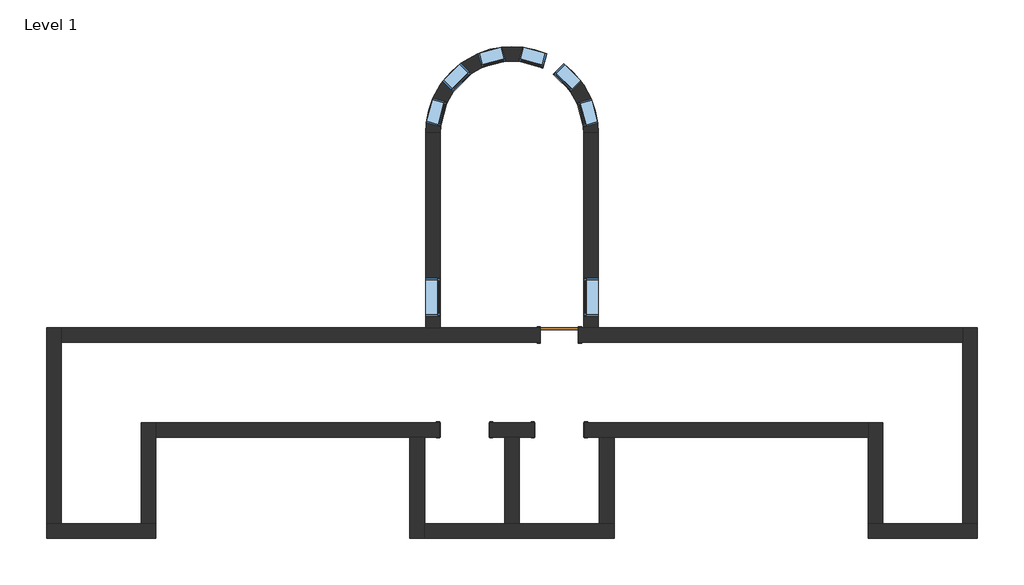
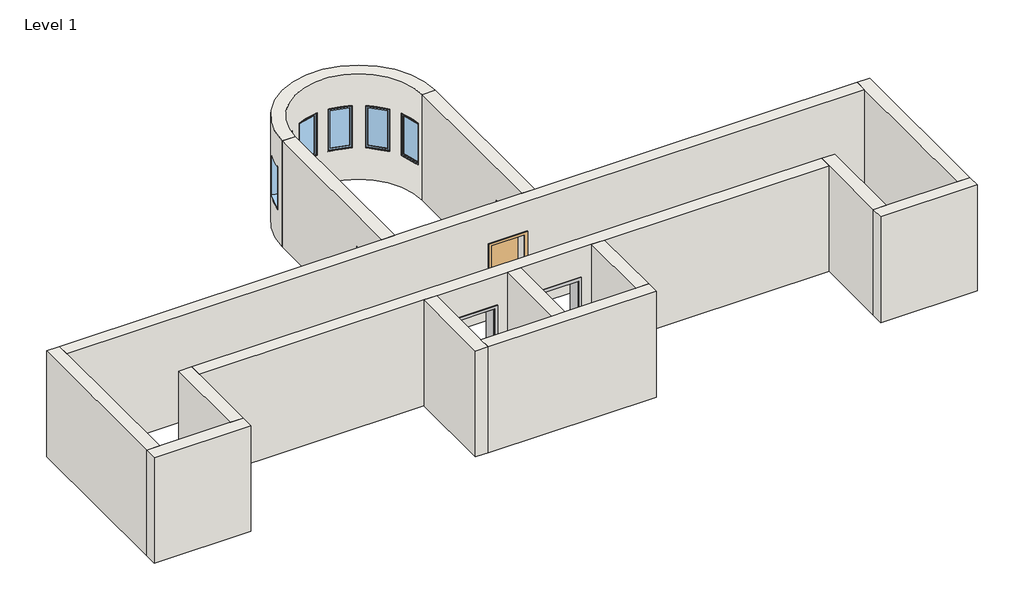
# One storey: 15 walls, 8 windows, 2 proxies, 1 door.
"""IFC4 building model written with IfcOpenShell, lengths in millimetres."""

from ifc_helpers import new_model, si_unit, frame, origin, origin_with_axes, place, context, project, spatial, polyline, circle_curve, outline, extrude, faceted_brep, transform, mapped, element, save
from ifc_brep_helpers import plane_surface, cylinder_surface, revolved_surface, advanced_brep
from components import proxy_c3589814, door_632be17d, window_60baf983, window_15c49d37

model = new_model("IFC4")

# Units and contexts
model_context = context("Model", 3, world=origin())
ifc_project = project(units=[si_unit("LENGTHUNIT", "METRE", prefix="MILLI")], contexts=[model_context])

# Site, building, storey
site = spatial("IfcSite", under=ifc_project)
building = spatial("IfcBuilding", under=site)
storey = spatial("IfcBuildingStorey", under=building, Name="Level 1", Elevation=0.0)

# Proxies
placement = place(None, origin())
proxy_shape = proxy_c3589814(model_context)
element("IfcBuildingElementProxy", 1, Name="Opening-Cased : 48\" x 84\"", ObjectType="Opening-Cased : 48\" x 84\"", at=placement, inside=storey, context=model_context, shape_type="MappedRepresentation", body=[
    mapped(proxy_shape, transform((-7396.8036255, 2429.9758812, 0.0), x_axis=(-1.0, 0.0, 0.0), y_axis=(0.0, -1.0, 0.0), z_axis=(0.0, 0.0, 1.0))),
])
element("IfcBuildingElementProxy", 2, Name="Opening-Cased : 48\" x 84\"", ObjectType="Opening-Cased : 48\" x 84\"", at=placement, inside=storey, context=model_context, shape_type="MappedRepresentation", body=[
    mapped(proxy_shape, transform((-5110.8036255, 2429.9758812, 0.0), x_axis=(-1.0, 0.0, 0.0), y_axis=(0.0, -1.0, 0.0), z_axis=(0.0, 0.0, 1.0))),
])

# Door
door_shape = door_632be17d(model_context)
element("IfcDoor", 3, ObjectType="Single-Flush : 36\" x 84\"", at=placement, inside=storey, context=model_context, shape_type="MappedRepresentation", body=[
    mapped(door_shape, transform((-5102.6149687, 4715.9758812, 0.0), x_axis=(1.0, 0.0, 0.0), y_axis=(0.0, 1.0, 0.0), z_axis=(0.0, 0.0, 1.0))),
])

# Walls
element("IfcWall", 4, ObjectType="Exterior - Brick on Mtl. Stud", at=placement, inside=storey, context=model_context, shape_type="Brep", body=[
    faceted_brep([(-8707.8274687, 2253.7633812, 0.0), (-8707.8274687, -184.6366188, 0.0), (-8707.8274687, -184.6366188, 3048.0), (-8707.8274687, 2253.7633812, 3048.0), (-8355.4024687, 2253.7633812, 0.0), (-8355.4024687, 2253.7633812, 3048.0), (-8355.4024687, 167.7883812, 3048.0), (-8355.4024687, -184.6366188, 3048.0), (-8355.4024687, -184.6366188, 0.0), (-8355.4024687, 167.7883812, 0.0)], [[[0, 1, 2, 3]], [[4, 5, 6, 7, 8, 9]], [[1, 0, 4, 9, 8]], [[3, 2, 7, 6, 5]], [[2, 1, 8, 7]], [[0, 3, 5, 4]]]),
])
element("IfcWall", 5, ObjectType="Exterior - Brick on Mtl. Stud", at=placement, inside=storey, context=model_context, shape_type="Brep", body=[
    faceted_brep([(-8355.4024687, -184.6366188, 0.0), (-3783.4024687, -184.6366188, 0.0), (-3783.4024687, -184.6366188, 3048.0), (-8355.4024687, -184.6366188, 3048.0), (-8355.4024687, 167.7883812, 0.0), (-8355.4024687, 167.7883812, 3048.0), (-6421.8274687, 167.7883812, 3048.0), (-6069.4024687, 167.7883812, 3048.0), (-4135.8274687, 167.7883812, 3048.0), (-3783.4024687, 167.7883812, 3048.0), (-3783.4024687, 167.7883812, 0.0), (-4135.8274687, 167.7883812, 0.0), (-6069.4024687, 167.7883812, 0.0), (-6421.8274687, 167.7883812, 0.0)], [[[0, 1, 2, 3]], [[4, 5, 6, 7, 8, 9, 10, 11, 12, 13]], [[1, 0, 4, 13, 12, 11, 10]], [[3, 2, 9, 8, 7, 6, 5]], [[2, 1, 10, 9]], [[0, 3, 5, 4]]]),
])
element("IfcWall", 6, ObjectType="Exterior - Brick on Mtl. Stud", at=placement, inside=storey, context=model_context, shape_type="SweptSolid", body=[
    extrude(outline(polyline([(-3783.4024687, 2253.7633812), (-3783.4024687, 167.7883812), (-4135.8274687, 167.7883812), (-4135.8274687, 2253.7633812), (-3783.4024687, 2253.7633812)])), origin_with_axes(), (0.0, 0.0, 1.0), 3048.0),
])
element("IfcWall", 7, ObjectType="Exterior - Brick on Mtl. Stud", at=placement, inside=storey, context=model_context, shape_type="Brep", body=[
    faceted_brep([(-6779.0149687, 2253.7633812, 0.0), (-6421.8274687, 2253.7633812, 0.0), (-6069.4024687, 2253.7633812, 0.0), (-5712.2149687, 2253.7633812, 0.0), (-5712.2149687, 2253.7633812, 2133.6), (-4493.0149687, 2253.7633812, 2133.6), (-4493.0149687, 2253.7633812, 0.0), (-4135.8274687, 2253.7633812, 0.0), (-3783.4024687, 2253.7633812, 0.0), (2341.1725313, 2253.7633812, 0.0), (2341.1725313, 2253.7633812, 3048.0), (-3783.4024687, 2253.7633812, 3048.0), (-4135.8274687, 2253.7633812, 3048.0), (-6069.4024687, 2253.7633812, 3048.0), (-6421.8274687, 2253.7633812, 3048.0), (-8355.4024687, 2253.7633812, 3048.0), (-8707.8274687, 2253.7633812, 3048.0), (-14832.4024687, 2253.7633812, 3048.0), (-14832.4024687, 2253.7633812, 0.0), (-8707.8274687, 2253.7633812, 0.0), (-8355.4024687, 2253.7633812, 0.0), (-7998.2149687, 2253.7633812, 0.0), (-7998.2149687, 2253.7633812, 2133.6), (-6779.0149687, 2253.7633812, 2133.6), (-5712.2149687, 2606.1883812, 2133.6), (-5712.2149687, 2606.1883812, 0.0), (-6779.0149687, 2606.1883812, 0.0), (-6779.0149687, 2606.1883812, 2133.6), (-7998.2149687, 2606.1883812, 2133.6), (-7998.2149687, 2606.1883812, 0.0), (-14832.4024687, 2606.1883812, 0.0), (-14832.4024687, 2606.1883812, 3048.0), (2341.1725313, 2606.1883812, 3048.0), (2341.1725313, 2606.1883812, 0.0), (-4493.0149687, 2606.1883812, 0.0), (-4493.0149687, 2606.1883812, 2133.6)], [[[0, 1, 2, 3, 4, 5, 6, 7, 8, 9, 10, 11, 12, 13, 14, 15, 16, 17, 18, 19, 20, 21, 22, 23]], [[24, 25, 26, 27, 28, 29, 30, 31, 32, 33, 34, 35]], [[30, 29, 21, 20, 19, 18]], [[26, 25, 3, 2, 1, 0]], [[34, 33, 9, 8, 7, 6]], [[17, 16, 15, 14, 13, 12, 11, 10, 32, 31]], [[10, 9, 33, 32]], [[18, 17, 31, 30]], [[0, 23, 27, 26]], [[22, 21, 29, 28]], [[23, 22, 28, 27]], [[6, 5, 35, 34]], [[4, 3, 25, 24]], [[5, 4, 24, 35]]]),
])
element("IfcWall", 8, ObjectType="Exterior - Brick on Mtl. Stud", at=placement, inside=storey, context=model_context, shape_type="SweptSolid", body=[
    extrude(outline(polyline([(9592.7758812, 0.0), (4892.1883812, 0.0), (4892.1883812, 3048.0), (9592.7758812, 3048.0), (9592.7758812, 0.0)]), holes=[polyline([(5173.1758812, 2133.6), (5173.1758812, 914.4), (6087.5758812, 914.4), (6087.5758812, 2133.6), (5173.1758812, 2133.6)])]), frame((-8326.8274687, 0.0, 0.0), z_axis=(1.0, 0.0, 0.0), x_axis=(0.0, 1.0, 0.0)), (0.0, 0.0, 1.0), 352.425),
])
element("IfcWall", 9, ObjectType="Exterior - Brick on Mtl. Stud", at=placement, inside=storey, context=model_context, shape_type="Brep", body=[
    faceted_brep([(4627.1725313, 4892.1883812, 0.0), (-4164.4024687, 4892.1883812, 0.0), (-4516.8274687, 4892.1883812, 0.0), (-4645.4149687, 4892.1883812, 0.0), (-4645.4149687, 4892.1883812, 2133.6), (-5559.8149687, 4892.1883812, 2133.6), (-5559.8149687, 4892.1883812, 0.0), (-7974.4024687, 4892.1883812, 0.0), (-8326.8274687, 4892.1883812, 0.0), (-17118.4024687, 4892.1883812, 0.0), (-17118.4024687, 4892.1883812, 3048.0), (-8326.8274687, 4892.1883812, 3048.0), (-7974.4024687, 4892.1883812, 3048.0), (-4516.8274687, 4892.1883812, 3048.0), (-4164.4024687, 4892.1883812, 3048.0), (4627.1725313, 4892.1883812, 3048.0), (-4645.4149687, 4539.7633812, 2133.6), (-4645.4149687, 4539.7633812, 0.0), (4627.1725313, 4539.7633812, 0.0), (4627.1725313, 4539.7633812, 3048.0), (-17118.4024687, 4539.7633812, 3048.0), (-17118.4024687, 4539.7633812, 0.0), (-5559.8149687, 4539.7633812, 0.0), (-5559.8149687, 4539.7633812, 2133.6)], [[[0, 1, 2, 3, 4, 5, 6, 7, 8, 9, 10, 11, 12, 13, 14, 15]], [[16, 17, 18, 19, 20, 21, 22, 23]], [[18, 17, 3, 2, 1, 0]], [[22, 21, 9, 8, 7, 6]], [[15, 14, 13, 12, 11, 10, 20, 19]], [[0, 15, 19, 18]], [[10, 9, 21, 20]], [[4, 3, 17, 16]], [[5, 4, 16, 23]], [[6, 5, 23, 22]]]),
])
element("IfcWall", 10, ObjectType="Exterior - Brick on Mtl. Stud", at=placement, inside=storey, context=model_context, shape_type="SweptSolid", body=[
    extrude(outline(polyline([(4892.1883812, 0.0), (4892.1883812, 3048.0), (9592.7758812, 3048.0), (9592.7758812, 0.0), (4892.1883812, 0.0)]), holes=[polyline([(6087.5758812, 2133.6), (5173.1758812, 2133.6), (5173.1758812, 914.4), (6087.5758812, 914.4), (6087.5758812, 2133.6)])]), frame((-4516.8274687, 0.0, 0.0), z_axis=(1.0, 0.0, 0.0), x_axis=(0.0, 1.0, 0.0)), (0.0, 0.0, 1.0), 352.425),
])
element("IfcWall", 11, ObjectType="Exterior - Brick on Mtl. Stud", at=placement, inside=storey, context=model_context, shape_type="AdvancedBrep", body=[
    advanced_brep(
    [(-4164.4024687, 9592.7758812, 3048.0), (-8326.8274687, 9592.7758812, 3048.0), (-7974.4024687, 9592.7758812, 3048.0), (-4516.8274687, 9592.7758812, 3048.0), (-8326.8274687, 9592.7758812, 0.0), (-4164.4024687, 9592.7758812, 0.0), (-4516.8274687, 9592.7758812, 0.0), (-7974.4024687, 9592.7758812, 0.0), (-8312.3878938, 9837.5107303, 914.4), (-8152.818084, 10425.8555575, 914.4), (-8152.818084, 10425.8555575, 2133.6), (-8312.3878938, 9837.5107303, 2133.6), (-7913.1254012, 10838.1089402, 2133.6), (-7913.1254012, 10838.1089402, 914.4), (-7480.7614786, 11267.8456019, 914.4), (-7480.7614786, 11267.8456019, 2133.6), (-7067.0548348, 11505.0211627, 2133.6), (-7067.0548348, 11505.0211627, 914.4), (-6477.7483633, 11661.0020674, 914.4), (-6477.7483633, 11661.0020674, 2133.6), (-6000.8801197, 11659.5488063, 2133.6), (-6000.8801197, 11659.5488063, 914.4), (-5412.5352924, 11499.9789965, 914.4), (-5412.5352924, 11499.9789965, 2133.6), (-5000.2819097, 11260.2863136, 2133.6), (-5000.2819097, 11260.2863136, 914.4), (-4570.545248, 10827.922391, 914.4), (-4570.545248, 10827.922391, 2133.6), (-4333.3696872, 10414.2157472, 2133.6), (-4333.3696872, 10414.2157472, 914.4), (-4177.3887825, 9824.9092757, 914.4), (-4177.3887825, 9824.9092757, 2133.6), (-7808.2019473, 10332.3893982, 914.4), (-7967.7717571, 9744.0445709, 914.4), (-7967.7717571, 9744.0445709, 2133.6), (-7808.2019473, 10332.3893982, 2133.6), (-7661.4121519, 10584.8568034, 914.4), (-7661.4121519, 10584.8568034, 2133.6), (-7229.0482293, 11014.5934652, 2133.6), (-7229.0482293, 11014.5934652, 914.4), (-6975.6908348, 11159.8417541, 2133.6), (-6386.3843633, 11315.8226588, 2133.6), (-6386.3843633, 11315.8226588, 914.4), (-6975.6908348, 11159.8417541, 914.4), (-6094.346279, 11314.9326695, 2133.6), (-5506.0014517, 11155.3628598, 2133.6), (-5506.0014517, 11155.3628598, 914.4), (-6094.346279, 11314.9326695, 914.4), (-5253.5340465, 11008.5730643, 2133.6), (-4823.7973847, 10576.2091417, 2133.6), (-4823.7973847, 10576.2091417, 914.4), (-5253.5340465, 11008.5730643, 914.4), (-4678.5490959, 10322.8517473, 2133.6), (-4522.5681912, 9733.5452757, 2133.6), (-4522.5681912, 9733.5452757, 914.4), (-4678.5490959, 10322.8517473, 914.4)],
    [
        (0, 1, circle_curve(frame((-6245.6149687, 9592.7758812, 3048.0), z_axis=(0.0, 0.0, 1.0), x_axis=(1.0, 0.0, 0.0)), 2081.2125)),
        (1, 2),
        (2, 3, circle_curve(frame((-6245.6149687, 9592.7758812, 3048.0), z_axis=(0.0, 0.0, -1.0), x_axis=(1.0, 0.0, 0.0)), 1728.7875)),
        (3, 0),
        (4, 5, circle_curve(frame((-6245.6149687, 9592.7758812, 0.0), z_axis=(0.0, 0.0, -1.0), x_axis=(1.0, 0.0, 0.0)), 2081.2125)),
        (5, 6),
        (6, 7, circle_curve(frame((-6245.6149687, 9592.7758812, 0.0), z_axis=(0.0, 0.0, 1.0), x_axis=(1.0, 0.0, 0.0)), 1728.7875)),
        (7, 4),
        (0, 5),
        (4, 1),
        (8, 9, circle_curve(frame((-6245.6149687, 9592.7758812, 914.4), z_axis=(0.0, 0.0, -1.0), x_axis=(1.0, 0.0, 0.0)), 2081.2125)),
        (9, 10),
        (10, 11, circle_curve(frame((-6245.6149687, 9592.7758812, 2133.6), z_axis=(0.0, 0.0, 1.0), x_axis=(1.0, 0.0, 0.0)), 2081.2125)),
        (11, 8),
        (12, 13),
        (13, 14, circle_curve(frame((-6245.6149687, 9592.7758812, 914.4), z_axis=(0.0, 0.0, -1.0), x_axis=(1.0, 0.0, 0.0)), 2081.2125)),
        (14, 15),
        (15, 12, circle_curve(frame((-6245.6149687, 9592.7758812, 2133.6), z_axis=(0.0, 0.0, 1.0), x_axis=(1.0, 0.0, 0.0)), 2081.2125)),
        (16, 17),
        (17, 18, circle_curve(frame((-6245.6149687, 9592.7758812, 914.4), z_axis=(0.0, 0.0, -1.0), x_axis=(1.0, 0.0, 0.0)), 2081.2125)),
        (18, 19),
        (19, 16, circle_curve(frame((-6245.6149687, 9592.7758812, 2133.6), z_axis=(0.0, 0.0, 1.0), x_axis=(1.0, 0.0, 0.0)), 2081.2125)),
        (20, 21),
        (21, 22, circle_curve(frame((-6245.6149687, 9592.7758812, 914.4), z_axis=(0.0, 0.0, -1.0), x_axis=(1.0, 0.0, 0.0)), 2081.2125)),
        (22, 23),
        (23, 20, circle_curve(frame((-6245.6149687, 9592.7758812, 2133.6), z_axis=(0.0, 0.0, 1.0), x_axis=(1.0, 0.0, 0.0)), 2081.2125)),
        (24, 25),
        (25, 26, circle_curve(frame((-6245.6149687, 9592.7758812, 914.4), z_axis=(0.0, 0.0, -1.0), x_axis=(1.0, 0.0, 0.0)), 2081.2125)),
        (26, 27),
        (27, 24, circle_curve(frame((-6245.6149687, 9592.7758812, 2133.6), z_axis=(0.0, 0.0, 1.0), x_axis=(1.0, 0.0, 0.0)), 2081.2125)),
        (28, 29),
        (29, 30, circle_curve(frame((-6245.6149687, 9592.7758812, 914.4), z_axis=(0.0, 0.0, -1.0), x_axis=(1.0, 0.0, 0.0)), 2081.2125)),
        (30, 31),
        (31, 28, circle_curve(frame((-6245.6149687, 9592.7758812, 2133.6), z_axis=(0.0, 0.0, 1.0), x_axis=(1.0, 0.0, 0.0)), 2081.2125)),
        (7, 2),
        (6, 3),
        (32, 33, circle_curve(frame((-6245.6149687, 9592.7758812, 914.4), z_axis=(0.0, 0.0, 1.0), x_axis=(1.0, 0.0, 0.0)), 1728.7875)),
        (33, 34),
        (34, 35, circle_curve(frame((-6245.6149687, 9592.7758812, 2133.6), z_axis=(0.0, 0.0, -1.0), x_axis=(1.0, 0.0, 0.0)), 1728.7875)),
        (35, 32),
        (36, 37),
        (37, 38, circle_curve(frame((-6245.6149687, 9592.7758812, 2133.6), z_axis=(0.0, 0.0, -1.0), x_axis=(1.0, 0.0, 0.0)), 1728.7875)),
        (38, 39),
        (39, 36, circle_curve(frame((-6245.6149687, 9592.7758812, 914.4), z_axis=(0.0, 0.0, 1.0), x_axis=(1.0, 0.0, 0.0)), 1728.7875)),
        (40, 41, circle_curve(frame((-6245.6149687, 9592.7758812, 2133.6), z_axis=(0.0, 0.0, -1.0), x_axis=(1.0, 0.0, 0.0)), 1728.7875)),
        (41, 42),
        (42, 43, circle_curve(frame((-6245.6149687, 9592.7758812, 914.4), z_axis=(0.0, 0.0, 1.0), x_axis=(1.0, 0.0, 0.0)), 1728.7875)),
        (43, 40),
        (44, 45, circle_curve(frame((-6245.6149687, 9592.7758812, 2133.6), z_axis=(0.0, 0.0, -1.0), x_axis=(1.0, 0.0, 0.0)), 1728.7875)),
        (45, 46),
        (46, 47, circle_curve(frame((-6245.6149687, 9592.7758812, 914.4), z_axis=(0.0, 0.0, 1.0), x_axis=(1.0, 0.0, 0.0)), 1728.7875)),
        (47, 44),
        (48, 49, circle_curve(frame((-6245.6149687, 9592.7758812, 2133.6), z_axis=(0.0, 0.0, -1.0), x_axis=(1.0, 0.0, 0.0)), 1728.7875)),
        (49, 50),
        (50, 51, circle_curve(frame((-6245.6149687, 9592.7758812, 914.4), z_axis=(0.0, 0.0, 1.0), x_axis=(1.0, 0.0, 0.0)), 1728.7875)),
        (51, 48),
        (52, 53, circle_curve(frame((-6245.6149687, 9592.7758812, 2133.6), z_axis=(0.0, 0.0, -1.0), x_axis=(1.0, 0.0, 0.0)), 1728.7875)),
        (53, 54),
        (54, 55, circle_curve(frame((-6245.6149687, 9592.7758812, 914.4), z_axis=(0.0, 0.0, 1.0), x_axis=(1.0, 0.0, 0.0)), 1728.7875)),
        (55, 52),
        (33, 8),
        (11, 34),
        (32, 9),
        (35, 10),
        (12, 37),
        (36, 13),
        (39, 14),
        (38, 15),
        (16, 40),
        (43, 17),
        (42, 18),
        (41, 19),
        (20, 44),
        (47, 21),
        (46, 22),
        (45, 23),
        (24, 48),
        (51, 25),
        (50, 26),
        (49, 27),
        (28, 52),
        (55, 29),
        (54, 30),
        (53, 31),
    ],
    [
        plane_surface(frame((-4164.4024687, 9592.7758812, 3048.0), z_axis=(0.0, 0.0, 1.0), x_axis=(0.0, 1.0, 0.0))),
        plane_surface(frame((-4164.4024687, 9592.7758812, 0.0), z_axis=(0.0, 0.0, -1.0), x_axis=(0.0, -1.0, 0.0))),
        cylinder_surface(frame((-6245.6149687, 9592.7758812, 0.0), z_axis=(0.0, 0.0, 1.0), x_axis=(1.0, 0.0, 0.0)), 2081.2125),
        plane_surface(frame((-8326.8274687, 9592.7758812, 3048.0), z_axis=(0.0, -1.0, 0.0), x_axis=(0.0, 0.0, -1.0))),
        revolved_surface(polyline([(-4516.827468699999, 9592.7758812, 0.0), (-4516.827468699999, 9592.7758812, 3048.0)]), (-6245.6149687, 9592.7758812, 0.0), (0.0, 0.0, -1.0)),
        plane_surface(frame((-4516.8274687, 9592.7758812, 3048.0), z_axis=(0.0, -1.0, 0.0), x_axis=(0.0, 0.0, -1.0))),
        plane_surface(frame((-6841.5258256, 9438.5862058, 2133.6), z_axis=(0.26176149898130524, 0.9651325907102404, 0.0), x_axis=(-0.9651325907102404, 0.26176149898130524, 0.0))),
        plane_surface(frame((-6841.5258256, 9438.5862058, 914.4), z_axis=(0.0, 0.0, 1.0000000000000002), x_axis=(-0.9651325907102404, 0.26176149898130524, 0.0))),
        plane_surface(frame((-6681.9560158, 10026.9310331, 914.4), z_axis=(-0.2617614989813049, -0.9651325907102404, 0.0), x_axis=(-0.9651325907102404, 0.2617614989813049, 0.0))),
        plane_surface(frame((-6681.9560158, 10026.9310331, 2133.6), z_axis=(0.0, 0.0, -1.0), x_axis=(-0.9651325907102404, 0.2617614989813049, 0.0))),
        plane_surface(frame((-6838.7837468, 9757.1991337, 2133.6), z_axis=(0.7092584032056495, 0.70494859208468, 0.0), x_axis=(-0.70494859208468, 0.7092584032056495, 0.0))),
        plane_surface(frame((-6838.7837468, 9757.1991337, 914.4), z_axis=(0.0, 0.0, 1.0), x_axis=(-0.7049485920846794, 0.7092584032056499, 0.0))),
        plane_surface(frame((-6406.4198242, 10186.9357955, 914.4), z_axis=(-0.7092584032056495, -0.70494859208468, 0.0), x_axis=(-0.70494859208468, 0.7092584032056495, 0.0))),
        plane_surface(frame((-6406.4198242, 10186.9357955, 2133.6), z_axis=(0.0, 0.0, -1.0), x_axis=(-0.70494859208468, 0.7092584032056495, 0.0))),
        plane_surface(frame((-7067.0548348, 11505.0211627, 2133.6), z_axis=(0.9667100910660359, 0.25587418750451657, 0.0), x_axis=(0.25587418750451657, -0.9667100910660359, 0.0))),
        plane_surface(frame((-7067.0548348, 11505.0211627, 914.4), z_axis=(0.0, 0.0, 1.0), x_axis=(0.2558741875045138, -0.9667100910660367, 0.0))),
        plane_surface(frame((-6477.7483633, 11661.0020674, 914.4), z_axis=(-0.9667100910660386, -0.2558741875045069, 0.0), x_axis=(0.2558741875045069, -0.9667100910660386, 0.0))),
        plane_surface(frame((-6477.7483633, 11661.0020674, 2133.6), z_axis=(0.0, 0.0, -1.0000000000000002), x_axis=(0.2558741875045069, -0.9667100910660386, 0.0))),
        plane_surface(frame((-6000.8801197, 11659.5488063, 2133.6), z_axis=(0.9651325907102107, -0.2617614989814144, 0.0), x_axis=(-0.2617614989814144, -0.9651325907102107, 0.0))),
        plane_surface(frame((-6000.8801197, 11659.5488063, 914.4), z_axis=(0.0, 0.0, 1.0000000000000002), x_axis=(-0.26176149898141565, -0.9651325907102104, 0.0))),
        plane_surface(frame((-5412.5352924, 11499.9789965, 914.4), z_axis=(-0.9651325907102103, 0.26176149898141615, 0.0), x_axis=(-0.26176149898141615, -0.9651325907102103, 0.0))),
        plane_surface(frame((-5412.5352924, 11499.9789965, 2133.6), z_axis=(0.0, 0.0, -1.0), x_axis=(-0.26176149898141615, -0.9651325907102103, 0.0))),
        plane_surface(frame((-5000.2819097, 11260.2863136, 2133.6), z_axis=(0.7049485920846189, -0.7092584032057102, 0.0), x_axis=(-0.7092584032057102, -0.7049485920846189, 0.0))),
        plane_surface(frame((-5000.2819097, 11260.2863136, 914.4), z_axis=(0.0, 0.0, 1.0000000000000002), x_axis=(-0.7092584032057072, -0.7049485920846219, 0.0))),
        plane_surface(frame((-4570.545248, 10827.922391, 914.4), z_axis=(-0.7049485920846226, 0.7092584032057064, 0.0), x_axis=(-0.7092584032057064, -0.7049485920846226, 0.0))),
        plane_surface(frame((-4570.545248, 10827.922391, 2133.6), z_axis=(0.0, 0.0, -1.0), x_axis=(-0.7092584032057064, -0.7049485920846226, 0.0))),
        plane_surface(frame((-4333.3696872, 10414.2157472, 2133.6), z_axis=(0.2558741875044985, -0.9667100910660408, 0.0), x_axis=(-0.9667100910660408, -0.2558741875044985, 0.0))),
        plane_surface(frame((-4333.3696872, 10414.2157472, 914.4), z_axis=(0.0, 0.0, 1.0), x_axis=(-0.9667100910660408, -0.2558741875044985, 0.0))),
        plane_surface(frame((-4177.3887825, 9824.9092757, 914.4), z_axis=(-0.2558741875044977, 0.966710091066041, 0.0), x_axis=(-0.966710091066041, -0.2558741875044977, 0.0))),
        plane_surface(frame((-4177.3887825, 9824.9092757, 2133.6), z_axis=(0.0, 0.0, -1.0), x_axis=(-0.966710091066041, -0.2558741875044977, 0.0))),
    ],
    [
        (0, [[1, 2, 3, 4]]),
        (1, [[5, 6, 7, 8]]),
        (2, [[-1, 9, -5, 10], [11, 12, 13, 14], [15, 16, 17, 18], [19, 20, 21, 22], [23, 24, 25, 26], [27, 28, 29, 30], [31, 32, 33, 34]]),
        (3, [[-2, -10, -8, 35]]),
        (4, [[-3, -35, -7, 36], [37, 38, 39, 40], [41, 42, 43, 44], [45, 46, 47, 48], [49, 50, 51, 52], [53, 54, 55, 56], [57, 58, 59, 60]]),
        (5, [[-4, -36, -6, -9]]),
        (6, [[61, -14, 62, -38]]),
        (7, [[-61, -37, 63, -11]]),
        (8, [[-63, -40, 64, -12]]),
        (9, [[-64, -39, -62, -13]]),
        (10, [[65, -41, 66, -15]]),
        (11, [[-66, -44, 67, -16]]),
        (12, [[-67, -43, 68, -17]]),
        (13, [[-65, -18, -68, -42]]),
        (14, [[-19, 69, -48, 70]]),
        (15, [[-20, -70, -47, 71]]),
        (16, [[-21, -71, -46, 72]]),
        (17, [[-22, -72, -45, -69]]),
        (18, [[-23, 73, -52, 74]]),
        (19, [[-24, -74, -51, 75]]),
        (20, [[-25, -75, -50, 76]]),
        (21, [[-26, -76, -49, -73]]),
        (22, [[-27, 77, -56, 78]]),
        (23, [[-28, -78, -55, 79]]),
        (24, [[-29, -79, -54, 80]]),
        (25, [[-30, -80, -53, -77]]),
        (26, [[-31, 81, -60, 82]]),
        (27, [[-32, -82, -59, 83]]),
        (28, [[-33, -83, -58, 84]]),
        (29, [[-34, -84, -57, -81]]),
    ],
),
])
element("IfcWall", 12, ObjectType="Exterior - Brick on Mtl. Stud", at=placement, inside=storey, context=model_context, shape_type="SweptSolid", body=[
    extrude(outline(polyline([(-6069.4024687, 2253.7633812), (-6069.4024687, 167.7883812), (-6421.8274687, 167.7883812), (-6421.8274687, 2253.7633812), (-6069.4024687, 2253.7633812)])), origin_with_axes(), (0.0, 0.0, 1.0), 3048.0),
])
element("IfcWall", 13, ObjectType="Exterior - Brick on Mtl. Stud", at=placement, inside=storey, context=model_context, shape_type="Brep", body=[
    faceted_brep([(4979.5975313, 167.7883812, 0.0), (4627.1725313, 167.7883812, 0.0), (2693.5975313, 167.7883812, 0.0), (2341.1725313, 167.7883812, 0.0), (2341.1725313, 167.7883812, 3048.0), (2693.5975313, 167.7883812, 3048.0), (4627.1725313, 167.7883812, 3048.0), (4979.5975313, 167.7883812, 3048.0), (4979.5975313, -184.6366188, 0.0), (4979.5975313, -184.6366188, 3048.0), (2341.1725313, -184.6366188, 3048.0), (2341.1725313, -184.6366188, 0.0)], [[[0, 1, 2, 3, 4, 5, 6, 7]], [[8, 9, 10, 11]], [[3, 2, 1, 0, 8, 11]], [[7, 6, 5, 4, 10, 9]], [[4, 3, 11, 10]], [[0, 7, 9, 8]]]),
])
element("IfcWall", 14, ObjectType="Exterior - Brick on Mtl. Stud", at=placement, inside=storey, context=model_context, shape_type="Brep", body=[
    faceted_brep([(2341.1725313, 2606.1883812, 0.0), (2341.1725313, 2253.7633812, 0.0), (2341.1725313, 167.7883812, 0.0), (2341.1725313, 167.7883812, 3048.0), (2341.1725313, 2253.7633812, 3048.0), (2341.1725313, 2606.1883812, 3048.0), (2693.5975313, 2606.1883812, 0.0), (2693.5975313, 2606.1883812, 3048.0), (2693.5975313, 167.7883812, 3048.0), (2693.5975313, 167.7883812, 0.0)], [[[0, 1, 2, 3, 4, 5]], [[6, 7, 8, 9]], [[2, 1, 0, 6, 9]], [[5, 4, 3, 8, 7]], [[0, 5, 7, 6]], [[3, 2, 9, 8]]]),
])
element("IfcWall", 15, ObjectType="Exterior - Brick on Mtl. Stud", at=placement, inside=storey, context=model_context, shape_type="Brep", body=[
    faceted_brep([(4979.5975313, 167.7883812, 0.0), (4979.5975313, 4892.1883812, 0.0), (4979.5975313, 4892.1883812, 3048.0), (4979.5975313, 167.7883812, 3048.0), (4627.1725313, 167.7883812, 0.0), (4627.1725313, 167.7883812, 3048.0), (4627.1725313, 4539.7633812, 3048.0), (4627.1725313, 4892.1883812, 3048.0), (4627.1725313, 4892.1883812, 0.0), (4627.1725313, 4539.7633812, 0.0)], [[[0, 1, 2, 3]], [[4, 5, 6, 7, 8, 9]], [[1, 0, 4, 9, 8]], [[3, 2, 7, 6, 5]], [[2, 1, 8, 7]], [[0, 3, 5, 4]]]),
])
element("IfcWall", 16, ObjectType="Exterior - Brick on Mtl. Stud", at=placement, inside=storey, context=model_context, shape_type="Brep", body=[
    faceted_brep([(-17470.8274687, -184.6366188, 0.0), (-14832.4024687, -184.6366188, 0.0), (-14832.4024687, -184.6366188, 3048.0), (-17470.8274687, -184.6366188, 3048.0), (-17470.8274687, 167.7883812, 0.0), (-17470.8274687, 167.7883812, 3048.0), (-17118.4024687, 167.7883812, 3048.0), (-15184.8274687, 167.7883812, 3048.0), (-14832.4024687, 167.7883812, 3048.0), (-14832.4024687, 167.7883812, 0.0), (-15184.8274687, 167.7883812, 0.0), (-17118.4024687, 167.7883812, 0.0)], [[[0, 1, 2, 3]], [[4, 5, 6, 7, 8, 9, 10, 11]], [[1, 0, 4, 11, 10, 9]], [[3, 2, 8, 7, 6, 5]], [[2, 1, 9, 8]], [[0, 3, 5, 4]]]),
])
element("IfcWall", 17, ObjectType="Exterior - Brick on Mtl. Stud", at=placement, inside=storey, context=model_context, shape_type="Brep", body=[
    faceted_brep([(-15184.8274687, 2606.1883812, 0.0), (-15184.8274687, 167.7883812, 0.0), (-15184.8274687, 167.7883812, 3048.0), (-15184.8274687, 2606.1883812, 3048.0), (-14832.4024687, 2606.1883812, 0.0), (-14832.4024687, 2606.1883812, 3048.0), (-14832.4024687, 2253.7633812, 3048.0), (-14832.4024687, 167.7883812, 3048.0), (-14832.4024687, 167.7883812, 0.0), (-14832.4024687, 2253.7633812, 0.0)], [[[0, 1, 2, 3]], [[4, 5, 6, 7, 8, 9]], [[1, 0, 4, 9, 8]], [[3, 2, 7, 6, 5]], [[0, 3, 5, 4]], [[2, 1, 8, 7]]]),
])
element("IfcWall", 18, ObjectType="Exterior - Brick on Mtl. Stud", at=placement, inside=storey, context=model_context, shape_type="Brep", body=[
    faceted_brep([(-17118.4024687, 167.7883812, 0.0), (-17118.4024687, 4539.7633812, 0.0), (-17118.4024687, 4892.1883812, 0.0), (-17118.4024687, 4892.1883812, 3048.0), (-17118.4024687, 4539.7633812, 3048.0), (-17118.4024687, 167.7883812, 3048.0), (-17470.8274687, 167.7883812, 0.0), (-17470.8274687, 167.7883812, 3048.0), (-17470.8274687, 4892.1883812, 3048.0), (-17470.8274687, 4892.1883812, 0.0)], [[[0, 1, 2, 3, 4, 5]], [[6, 7, 8, 9]], [[2, 1, 0, 6, 9]], [[5, 4, 3, 8, 7]], [[3, 2, 9, 8]], [[0, 5, 7, 6]]]),
])

# Windows
window_shape = window_60baf983(model_context)
element("IfcWindow", 19, ObjectType="Fixed : 24\" x 48\"", at=placement, inside=storey, context=model_context, shape_type="MappedRepresentation", body=[
    mapped(window_shape, transform((-8072.5076754, 10048.7859441, 0.0), x_axis=(-0.2617614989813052, -0.9651325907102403, 0.0), y_axis=(0.9651325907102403, -0.2617614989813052, 0.0), z_axis=(0.0, 0.0, 1.0))),
])
element("IfcWindow", 20, ObjectType="Fixed : 24\" x 48\"", at=placement, inside=storey, context=model_context, shape_type="MappedRepresentation", body=[
    mapped(window_shape, transform((-7599.7454312, 10901.1385333, 0.0), x_axis=(-0.7092584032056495, -0.7049485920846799, 0.0), y_axis=(0.7049485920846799, -0.7092584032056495, 0.0), z_axis=(0.0, 0.0, 1.0))),
])
element("IfcWindow", 21, ObjectType="Fixed : 24\" x 48\"", at=placement, inside=storey, context=model_context, shape_type="MappedRepresentation", body=[
    mapped(window_shape, transform((-6764.1450232, 11402.9164066, 0.0), x_axis=(-0.96671009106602, -0.25587418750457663, 0.0), y_axis=(0.25587418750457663, -0.96671009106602, 0.0), z_axis=(0.0, 0.0, 1.0))),
])
element("IfcWindow", 22, ObjectType="Fixed : 24\" x 48\"", at=placement, inside=storey, context=model_context, shape_type="MappedRepresentation", body=[
    mapped(window_shape, transform((-5789.6049059, 11419.6685878, 0.0), x_axis=(-0.9651325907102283, 0.2617614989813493, 0.0), y_axis=(-0.2617614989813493, -0.9651325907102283, 0.0), z_axis=(0.0, 0.0, 1.0))),
])
element("IfcWindow", 23, ObjectType="Fixed : 24\" x 48\"", at=placement, inside=storey, context=model_context, shape_type="MappedRepresentation", body=[
    mapped(window_shape, transform((-4937.2523166, 10946.9063437, 0.0), x_axis=(-0.7049485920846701, 0.7092584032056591, 0.0), y_axis=(-0.7092584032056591, -0.7049485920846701, 0.0), z_axis=(0.0, 0.0, 1.0))),
])
element("IfcWindow", 24, ObjectType="Fixed : 24\" x 48\"", at=placement, inside=storey, context=model_context, shape_type="MappedRepresentation", body=[
    mapped(window_shape, transform((-4435.4744434, 10111.3059357, 0.0), x_axis=(-0.25587418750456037, 0.9667100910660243, 0.0), y_axis=(-0.9667100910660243, -0.25587418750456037, 0.0), z_axis=(0.0, 0.0, 1.0))),
])
window_2_shape = window_15c49d37(model_context)
element("IfcWindow", 25, ObjectType="Fixed : 36\" x 48\"", at=placement, inside=storey, context=model_context, shape_type="MappedRepresentation", body=[
    mapped(window_2_shape, transform((-8150.6149687, 5592.2758812, 0.0), x_axis=(0.0, -1.0, 0.0), y_axis=(1.0, 0.0, 0.0), z_axis=(0.0, 0.0, 1.0))),
])
element("IfcWindow", 26, ObjectType="Fixed : 36\" x 48\"", at=placement, inside=storey, context=model_context, shape_type="MappedRepresentation", body=[
    mapped(window_2_shape, transform((-4340.6149687, 5668.4758812, 0.0), x_axis=(0.0, 1.0, 0.0), y_axis=(-1.0, 0.0, 0.0), z_axis=(0.0, 0.0, 1.0))),
])

save(model, "model.ifc")
